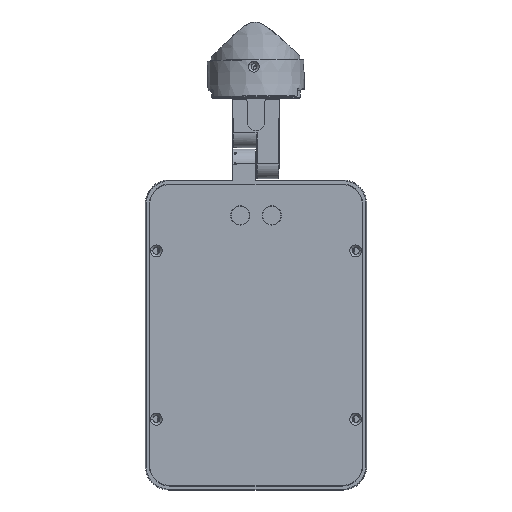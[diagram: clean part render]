
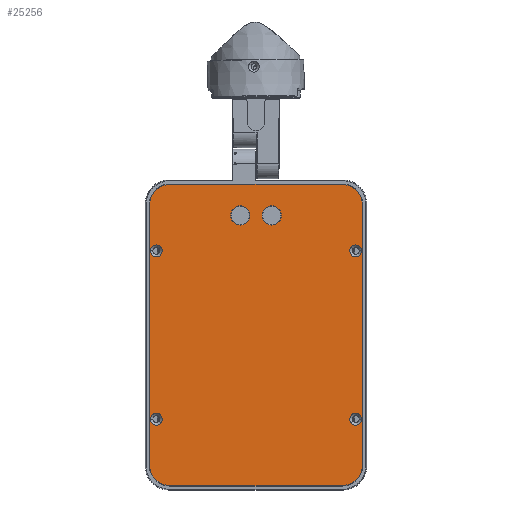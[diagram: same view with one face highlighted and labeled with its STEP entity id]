
A CAD part, front view. The second image highlights one B-rep face of the part: STEP entity #25256.
In plain terms, the highlighted planar face has unit normal (0, -1, 0).
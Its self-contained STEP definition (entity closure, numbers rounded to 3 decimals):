
#11625=CARTESIAN_POINT('',(67.5,0.5,57.));
#11626=DIRECTION('',(0.,-1.,0.));
#11627=DIRECTION('',(1.,0.,0.));
#11628=AXIS2_PLACEMENT_3D('',#11625,#11626,#11627);
#11630=CARTESIAN_POINT('',(67.5,0.5,57.));
#11631=DIRECTION('',(0.,-1.,0.));
#11632=DIRECTION('',(-1.,0.,0.));
#11633=AXIS2_PLACEMENT_3D('',#11630,#11631,#11632);
#11635=CARTESIAN_POINT('',(-67.5,0.5,-57.));
#11636=DIRECTION('',(0.,-1.,0.));
#11637=DIRECTION('',(-1.,0.,0.));
#11638=AXIS2_PLACEMENT_3D('',#11635,#11636,#11637);
#11640=CARTESIAN_POINT('',(-67.5,0.5,-57.));
#11641=DIRECTION('',(0.,-1.,0.));
#11642=DIRECTION('',(1.,0.,0.));
#11643=AXIS2_PLACEMENT_3D('',#11640,#11641,#11642);
#11645=CARTESIAN_POINT('',(-67.5,0.5,57.));
#11646=DIRECTION('',(0.,1.,0.));
#11647=DIRECTION('',(-1.,0.,0.));
#11648=AXIS2_PLACEMENT_3D('',#11645,#11646,#11647);
#11650=CARTESIAN_POINT('',(-67.5,0.5,57.));
#11651=DIRECTION('',(0.,-1.,0.));
#11652=DIRECTION('',(-1.,0.,0.));
#11653=AXIS2_PLACEMENT_3D('',#11650,#11651,#11652);
#11655=CARTESIAN_POINT('',(67.5,0.5,-57.));
#11656=DIRECTION('',(0.,-1.,0.));
#11657=DIRECTION('',(-1.,0.,0.));
#11658=AXIS2_PLACEMENT_3D('',#11655,#11656,#11657);
#11660=CARTESIAN_POINT('',(67.5,0.5,-57.));
#11661=DIRECTION('',(0.,1.,0.));
#11662=DIRECTION('',(-1.,0.,0.));
#11663=AXIS2_PLACEMENT_3D('',#11660,#11661,#11662);
#11665=CARTESIAN_POINT('',(58.5,0.5,-88.5));
#11666=DIRECTION('',(0.,1.,0.));
#11667=DIRECTION('',(1.,0.,0.));
#11668=AXIS2_PLACEMENT_3D('',#11665,#11666,#11667);
#11670=DIRECTION('',(-1.,0.,0.));
#11671=VECTOR('',#11670,117.);
#11672=CARTESIAN_POINT('',(58.5,0.5,-102.));
#11673=LINE('',#11672,#11671);
#11674=CARTESIAN_POINT('',(-58.5,0.5,-88.5));
#11675=DIRECTION('',(0.,1.,0.));
#11676=DIRECTION('',(0.,0.,-1.));
#11677=AXIS2_PLACEMENT_3D('',#11674,#11675,#11676);
#11679=DIRECTION('',(0.,0.,1.));
#11680=VECTOR('',#11679,177.);
#11681=CARTESIAN_POINT('',(-72.,0.5,-88.5));
#11682=LINE('',#11681,#11680);
#11683=CARTESIAN_POINT('',(-58.5,0.5,88.5));
#11684=DIRECTION('',(0.,1.,0.));
#11685=DIRECTION('',(-1.,0.,0.));
#11686=AXIS2_PLACEMENT_3D('',#11683,#11684,#11685);
#11688=DIRECTION('',(1.,0.,0.));
#11689=VECTOR('',#11688,117.);
#11690=CARTESIAN_POINT('',(-58.5,0.5,102.));
#11691=LINE('',#11690,#11689);
#11692=CARTESIAN_POINT('',(58.5,0.5,88.5));
#11693=DIRECTION('',(0.,1.,0.));
#11694=DIRECTION('',(0.,0.,1.));
#11695=AXIS2_PLACEMENT_3D('',#11692,#11693,#11694);
#11697=DIRECTION('',(0.,0.,-1.));
#11698=VECTOR('',#11697,177.);
#11699=CARTESIAN_POINT('',(72.,0.5,88.5));
#11700=LINE('',#11699,#11698);
#11701=CARTESIAN_POINT('',(-10.65,0.5,81.));
#11702=DIRECTION('',(0.,1.,0.));
#11703=DIRECTION('',(-1.,0.,0.));
#11704=AXIS2_PLACEMENT_3D('',#11701,#11702,#11703);
#11706=CARTESIAN_POINT('',(-10.65,0.5,81.));
#11707=DIRECTION('',(0.,1.,0.));
#11708=DIRECTION('',(1.,0.,0.));
#11709=AXIS2_PLACEMENT_3D('',#11706,#11707,#11708);
#11711=CARTESIAN_POINT('',(10.65,0.5,81.));
#11712=DIRECTION('',(0.,1.,0.));
#11713=DIRECTION('',(-1.,0.,0.));
#11714=AXIS2_PLACEMENT_3D('',#11711,#11712,#11713);
#11716=CARTESIAN_POINT('',(10.65,0.5,81.));
#11717=DIRECTION('',(0.,1.,0.));
#11718=DIRECTION('',(1.,0.,0.));
#11719=AXIS2_PLACEMENT_3D('',#11716,#11717,#11718);
#22446=CARTESIAN_POINT('',(71.55,0.5,57.));
#22447=CARTESIAN_POINT('',(63.45,0.5,57.));
#22448=VERTEX_POINT('',#22446);
#22449=VERTEX_POINT('',#22447);
#22454=CARTESIAN_POINT('',(58.5,0.5,-102.));
#22455=CARTESIAN_POINT('',(72.,0.5,-88.5));
#22456=VERTEX_POINT('',#22454);
#22457=VERTEX_POINT('',#22455);
#22458=CARTESIAN_POINT('',(72.,0.5,88.5));
#22459=VERTEX_POINT('',#22458);
#22460=CARTESIAN_POINT('',(58.5,0.5,102.));
#22461=VERTEX_POINT('',#22460);
#22462=CARTESIAN_POINT('',(-58.5,0.5,102.));
#22463=VERTEX_POINT('',#22462);
#22464=CARTESIAN_POINT('',(-72.,0.5,88.5));
#22465=VERTEX_POINT('',#22464);
#22466=CARTESIAN_POINT('',(-72.,0.5,-88.5));
#22467=VERTEX_POINT('',#22466);
#22468=CARTESIAN_POINT('',(-58.5,0.5,-102.));
#22469=VERTEX_POINT('',#22468);
#22490=CARTESIAN_POINT('',(-71.55,0.5,-57.));
#22491=CARTESIAN_POINT('',(-63.45,0.5,-57.));
#22492=VERTEX_POINT('',#22490);
#22493=VERTEX_POINT('',#22491);
#22498=CARTESIAN_POINT('',(-71.55,0.5,57.));
#22499=VERTEX_POINT('',#22498);
#22500=CARTESIAN_POINT('',(-63.45,0.5,57.));
#22501=VERTEX_POINT('',#22500);
#22506=CARTESIAN_POINT('',(71.55,0.5,-57.));
#22507=VERTEX_POINT('',#22506);
#22508=CARTESIAN_POINT('',(63.45,0.5,-57.));
#22509=VERTEX_POINT('',#22508);
#22801=CARTESIAN_POINT('',(-17.2,0.5,81.));
#22802=CARTESIAN_POINT('',(-4.1,0.5,81.));
#22803=VERTEX_POINT('',#22801);
#22804=VERTEX_POINT('',#22802);
#22809=CARTESIAN_POINT('',(4.1,0.5,81.));
#22810=CARTESIAN_POINT('',(17.2,0.5,81.));
#22811=VERTEX_POINT('',#22809);
#22812=VERTEX_POINT('',#22810);
#25197=CARTESIAN_POINT('',(0.,0.5,0.));
#25198=DIRECTION('',(0.,1.,0.));
#25199=DIRECTION('',(1.,0.,0.));
#25200=AXIS2_PLACEMENT_3D('',#25197,#25198,#25199);
#25201=PLANE('',#25200);
#25203=ORIENTED_EDGE('',*,*,#25202,.T.);
#25205=ORIENTED_EDGE('',*,*,#25204,.T.);
#25207=ORIENTED_EDGE('',*,*,#25206,.T.);
#25209=ORIENTED_EDGE('',*,*,#25208,.T.);
#25211=ORIENTED_EDGE('',*,*,#25210,.T.);
#25213=ORIENTED_EDGE('',*,*,#25212,.T.);
#25215=ORIENTED_EDGE('',*,*,#25214,.T.);
#25217=ORIENTED_EDGE('',*,*,#25216,.T.);
#25218=EDGE_LOOP('',(#25203,#25205,#25207,#25209,#25211,#25213,#25215,#25217));
#25219=FACE_OUTER_BOUND('',#25218,.F.);
#25221=ORIENTED_EDGE('',*,*,#25220,.T.);
#25223=ORIENTED_EDGE('',*,*,#25222,.T.);
#25224=EDGE_LOOP('',(#25221,#25223));
#25225=FACE_BOUND('',#25224,.F.);
#25227=ORIENTED_EDGE('',*,*,#25226,.F.);
#25229=ORIENTED_EDGE('',*,*,#25228,.T.);
#25230=EDGE_LOOP('',(#25227,#25229));
#25231=FACE_BOUND('',#25230,.F.);
#25233=ORIENTED_EDGE('',*,*,#25232,.T.);
#25235=ORIENTED_EDGE('',*,*,#25234,.F.);
#25236=EDGE_LOOP('',(#25233,#25235));
#25237=FACE_BOUND('',#25236,.F.);
#25239=ORIENTED_EDGE('',*,*,#25238,.T.);
#25241=ORIENTED_EDGE('',*,*,#25240,.T.);
#25242=EDGE_LOOP('',(#25239,#25241));
#25243=FACE_BOUND('',#25242,.F.);
#25245=ORIENTED_EDGE('',*,*,#25244,.F.);
#25247=ORIENTED_EDGE('',*,*,#25246,.F.);
#25248=EDGE_LOOP('',(#25245,#25247));
#25249=FACE_BOUND('',#25248,.F.);
#25251=ORIENTED_EDGE('',*,*,#25250,.F.);
#25253=ORIENTED_EDGE('',*,*,#25252,.F.);
#25254=EDGE_LOOP('',(#25251,#25253));
#25255=FACE_BOUND('',#25254,.F.);
#25256=ADVANCED_FACE('',(#25219,#25225,#25231,#25237,#25243,#25249,#25255),
#25201,.F.);
#11629=CIRCLE('',#11628,4.05);
#11634=CIRCLE('',#11633,4.05);
#11639=CIRCLE('',#11638,4.05);
#11644=CIRCLE('',#11643,4.05);
#11649=CIRCLE('',#11648,4.05);
#11654=CIRCLE('',#11653,4.05);
#11659=CIRCLE('',#11658,4.05);
#11664=CIRCLE('',#11663,4.05);
#11669=CIRCLE('',#11668,13.5);
#11678=CIRCLE('',#11677,13.5);
#11687=CIRCLE('',#11686,13.5);
#11696=CIRCLE('',#11695,13.5);
#11705=CIRCLE('',#11704,6.55);
#11710=CIRCLE('',#11709,6.55);
#11715=CIRCLE('',#11714,6.55);
#11720=CIRCLE('',#11719,6.55);
#25202=EDGE_CURVE('',#22457,#22456,#11669,.T.);
#25204=EDGE_CURVE('',#22456,#22469,#11673,.T.);
#25206=EDGE_CURVE('',#22469,#22467,#11678,.T.);
#25208=EDGE_CURVE('',#22467,#22465,#11682,.T.);
#25210=EDGE_CURVE('',#22465,#22463,#11687,.T.);
#25212=EDGE_CURVE('',#22463,#22461,#11691,.T.);
#25214=EDGE_CURVE('',#22461,#22459,#11696,.T.);
#25216=EDGE_CURVE('',#22459,#22457,#11700,.T.);
#25220=EDGE_CURVE('',#22492,#22493,#11639,.T.);
#25222=EDGE_CURVE('',#22493,#22492,#11644,.T.);
#25226=EDGE_CURVE('',#22499,#22501,#11649,.T.);
#25228=EDGE_CURVE('',#22499,#22501,#11654,.T.);
#25232=EDGE_CURVE('',#22509,#22507,#11659,.T.);
#25234=EDGE_CURVE('',#22509,#22507,#11664,.T.);
#25238=EDGE_CURVE('',#22448,#22449,#11629,.T.);
#25240=EDGE_CURVE('',#22449,#22448,#11634,.T.);
#25244=EDGE_CURVE('',#22803,#22804,#11705,.T.);
#25246=EDGE_CURVE('',#22804,#22803,#11710,.T.);
#25250=EDGE_CURVE('',#22811,#22812,#11715,.T.);
#25252=EDGE_CURVE('',#22812,#22811,#11720,.T.);
